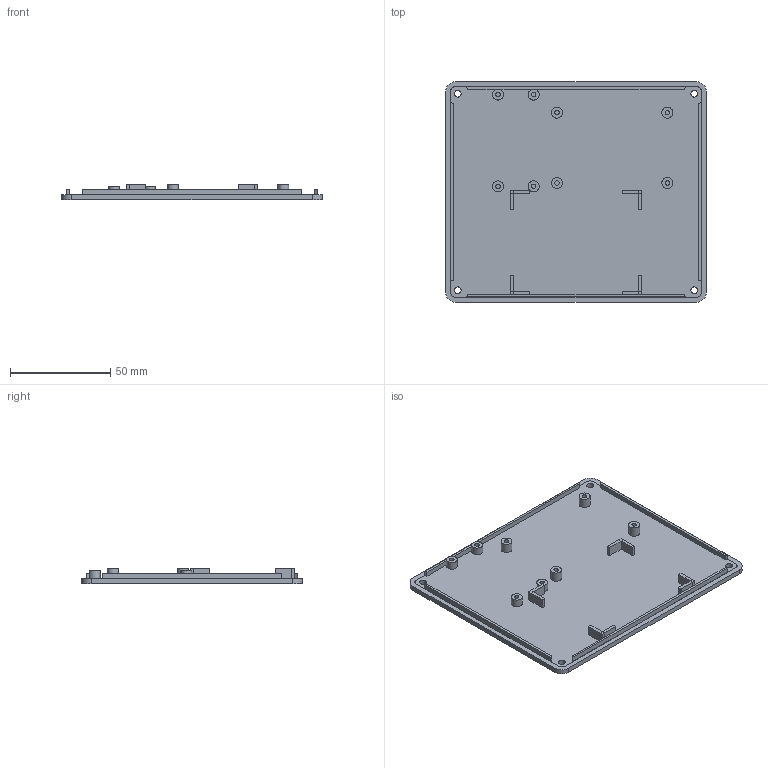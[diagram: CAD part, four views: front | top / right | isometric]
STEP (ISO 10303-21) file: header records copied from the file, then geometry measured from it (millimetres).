
FILE_DESCRIPTION(('FreeCAD Model'),'2;1');
FILE_NAME('Open CASCADE Shape Model','2026-10-21T11:20:03',('Author'),( ''),'Open CASCADE STEP processor 7.9','FreeCAD','Unknown');
FILE_SCHEMA(('AUTOMOTIVE_DESIGN { 1 0 10303 214 1 1 1 1 }'));
Length unit declared in the file: millimetre
Products named in the file (1): Station_Base_Plate
Bounding box: 130 x 110 x 7.5 mm (x, y, z)
Volume: 38030.5 mm3; surface area: 33457.3 mm2
Topology: 1 solids, 1 shells, 113 faces, 256 edges, 168 vertices
Faces by surface type: plane 81, cylinder 32
Full cylindrical faces by diameter (mm): 2.2 x8, 3.4 x4, 5.5 x8
Entity records: 3184 total; most frequent: DIRECTION 556, CARTESIAN_POINT 538, ORIENTED_EDGE 512, EDGE_CURVE 256, AXIS2_PLACEMENT_3D 186, LINE 184, VECTOR 184, VERTEX_POINT 168
